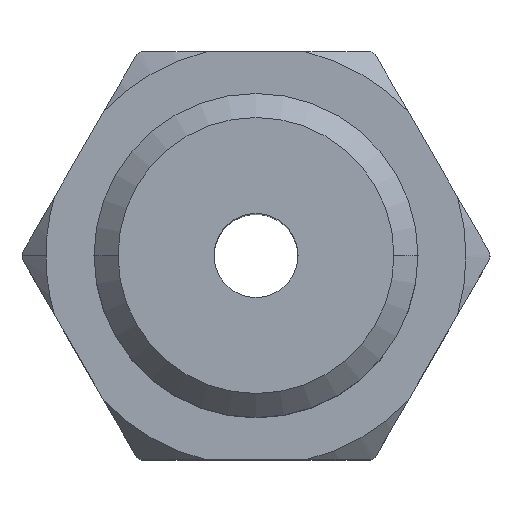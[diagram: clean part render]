
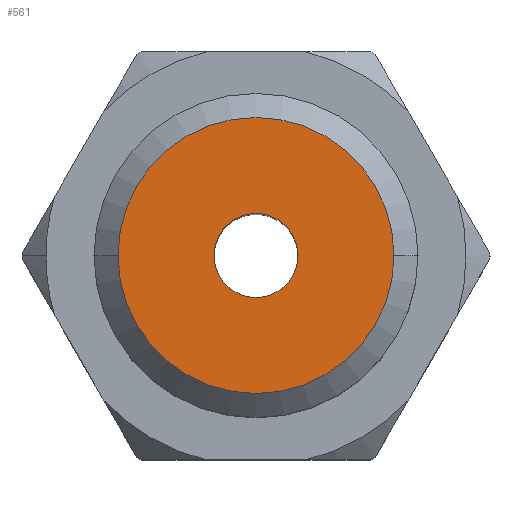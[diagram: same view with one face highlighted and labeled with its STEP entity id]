
A CAD part, top view. The second image highlights one B-rep face of the part: STEP entity #561.
In plain terms, the highlighted planar face has unit normal (0, 0, 1).
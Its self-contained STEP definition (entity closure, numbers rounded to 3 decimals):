
#33 = AXIS2_PLACEMENT_3D ( 'NONE', #2369, #2408, #3542 ) ;
#245 = AXIS2_PLACEMENT_3D ( 'NONE', #2374, #1142, #1501 ) ;
#438 = CARTESIAN_POINT ( 'NONE',  ( 0., 0., 25. ) ) ;
#487 = CIRCLE ( 'NONE', #2654, 5.75 ) ;
#561 = ADVANCED_FACE ( 'NONE', ( #2591, #1703 ), #2014, .F. ) ;
#752 = DIRECTION ( 'NONE',  ( -1., 0., 0. ) ) ;
#1074 = ORIENTED_EDGE ( 'NONE', *, *, #1750, .T. ) ;
#1142 = DIRECTION ( 'NONE',  ( 0., 0., 1. ) ) ;
#1501 = DIRECTION ( 'NONE',  ( -1., 0., 0. ) ) ;
#1542 = AXIS2_PLACEMENT_3D ( 'NONE', #438, #2873, #1977 ) ;
#1632 = AXIS2_PLACEMENT_3D ( 'NONE', #3473, #3232, #752 ) ;
#1703 = FACE_BOUND ( 'NONE', #1983, .T. ) ;
#1750 = EDGE_CURVE ( 'NONE', #3919, #3632, #3363, .T. ) ;
#1767 = EDGE_LOOP ( 'NONE', ( #3341, #1074 ) ) ;
#1907 = DIRECTION ( 'NONE',  ( -1., 0., 0. ) ) ;
#1973 = EDGE_CURVE ( 'NONE', #3434, #2588, #2599, .T. ) ;
#1977 = DIRECTION ( 'NONE',  ( -1., 0., 0. ) ) ;
#1983 = EDGE_LOOP ( 'NONE', ( #2990, #2042 ) ) ;
#2014 = PLANE ( 'NONE',  #1542 ) ;
#2042 = ORIENTED_EDGE ( 'NONE', *, *, #3671, .F. ) ;
#2369 = CARTESIAN_POINT ( 'NONE',  ( 0., 0., 25. ) ) ;
#2374 = CARTESIAN_POINT ( 'NONE',  ( 0., 0., 25. ) ) ;
#2408 = DIRECTION ( 'NONE',  ( 0., 0., 1. ) ) ;
#2450 = CARTESIAN_POINT ( 'NONE',  ( -1.75, 0., 25. ) ) ;
#2588 = VERTEX_POINT ( 'NONE', #3248 ) ;
#2591 = FACE_OUTER_BOUND ( 'NONE', #1767, .T. ) ;
#2599 = CIRCLE ( 'NONE', #245, 1.75 ) ;
#2654 = AXIS2_PLACEMENT_3D ( 'NONE', #3749, #3730, #1907 ) ;
#2768 = EDGE_CURVE ( 'NONE', #3632, #3919, #487, .T. ) ;
#2873 = DIRECTION ( 'NONE',  ( 0., 0., -1. ) ) ;
#2897 = CIRCLE ( 'NONE', #33, 1.75 ) ;
#2990 = ORIENTED_EDGE ( 'NONE', *, *, #1973, .F. ) ;
#3117 = CARTESIAN_POINT ( 'NONE',  ( 5.75, 0., 25. ) ) ;
#3232 = DIRECTION ( 'NONE',  ( 0., 0., 1. ) ) ;
#3248 = CARTESIAN_POINT ( 'NONE',  ( 1.75, 0., 25. ) ) ;
#3341 = ORIENTED_EDGE ( 'NONE', *, *, #2768, .T. ) ;
#3363 = CIRCLE ( 'NONE', #1632, 5.75 ) ;
#3434 = VERTEX_POINT ( 'NONE', #2450 ) ;
#3473 = CARTESIAN_POINT ( 'NONE',  ( 0., 0., 25. ) ) ;
#3542 = DIRECTION ( 'NONE',  ( -1., 0., 0. ) ) ;
#3599 = CARTESIAN_POINT ( 'NONE',  ( -5.75, 0., 25. ) ) ;
#3632 = VERTEX_POINT ( 'NONE', #3599 ) ;
#3671 = EDGE_CURVE ( 'NONE', #2588, #3434, #2897, .T. ) ;
#3730 = DIRECTION ( 'NONE',  ( 0., 0., 1. ) ) ;
#3749 = CARTESIAN_POINT ( 'NONE',  ( 0., 0., 25. ) ) ;
#3919 = VERTEX_POINT ( 'NONE', #3117 ) ;
